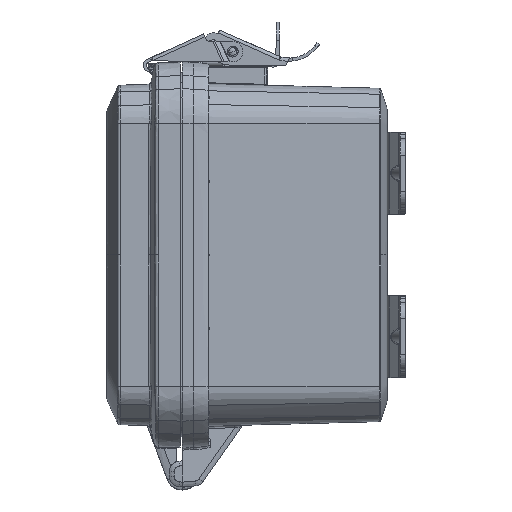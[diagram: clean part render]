
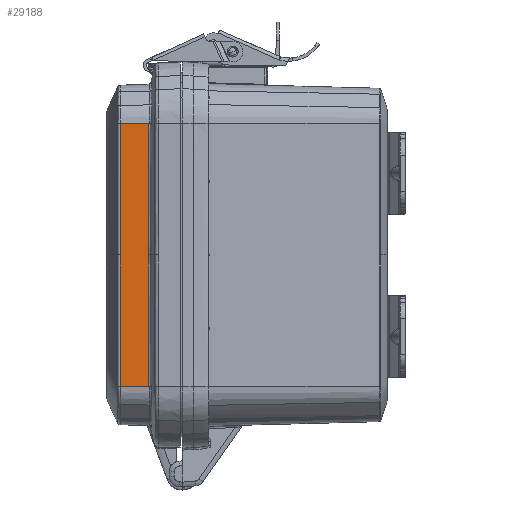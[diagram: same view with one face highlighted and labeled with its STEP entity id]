
A CAD part, left-side view. The second image highlights one B-rep face of the part: STEP entity #29188.
In plain terms, the highlighted planar face has unit normal (-0.999, 0.035, 0).
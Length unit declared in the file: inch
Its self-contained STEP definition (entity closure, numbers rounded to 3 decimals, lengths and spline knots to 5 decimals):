
#908 = ORIENTED_EDGE ( 'NONE', *, *, #61828, .T. ) ;
#1939 = CARTESIAN_POINT ( 'NONE',  ( -3.10805, 0.4854, 0. ) ) ;
#9719 = CARTESIAN_POINT ( 'NONE',  ( -3.10805, 0.48534, -0.66951 ) ) ;
#12498 = CARTESIAN_POINT ( 'NONE',  ( -3.10805, 0.48534, 0.66952 ) ) ;
#14244 = CARTESIAN_POINT ( 'NONE',  ( -3.10804, 0.48564, 1.92486 ) ) ;
#15109 = CARTESIAN_POINT ( 'NONE',  ( -3.10805, 0.48544, 1.17165 ) ) ;
#20266 = CARTESIAN_POINT ( 'NONE',  ( -3.10805, 0.48539, -1.7993 ) ) ;
#21728 = CARTESIAN_POINT ( 'NONE',  ( -3.0929, 0.91919, -2.00423 ) ) ;
#23477 = CARTESIAN_POINT ( 'NONE',  ( -3.10805, 0.4854, 0. ) ) ;
#25694 = ORIENTED_EDGE ( 'NONE', *, *, #139746, .T. ) ;
#26528 = CARTESIAN_POINT ( 'NONE',  ( -3.10809, 0.48411, 1.96668 ) ) ;
#29188 = ADVANCED_FACE ( 'NONE', ( #77534 ), #117144, .T. ) ;
#36037 = LINE ( 'NONE', #132709, #161957 ) ;
#38848 = EDGE_CURVE ( 'NONE', #58846, #134260, #146899, .T. ) ;
#47472 = CARTESIAN_POINT ( 'NONE',  ( -3.10805, 0.48533, -1.59008 ) ) ;
#48682 = VECTOR ( 'NONE', #146384, 39.37008 ) ;
#50978 = DIRECTION ( 'NONE',  ( -0.035, -0.999, 0. ) ) ;
#52010 = CARTESIAN_POINT ( 'NONE',  ( -3.10805, 0.48539, 1.79932 ) ) ;
#55609 = ORIENTED_EDGE ( 'NONE', *, *, #108804, .F. ) ;
#56310 = B_SPLINE_CURVE_WITH_KNOTS ( 'NONE', 3,
 ( #101277, #154893, #108928, #121238 ),
 .UNSPECIFIED., .F., .F.,
 ( 4, 4 ),
 ( 0., 1. ),
 .UNSPECIFIED. ) ;
#58846 = VERTEX_POINT ( 'NONE', #103634 ) ;
#60092 = ORIENTED_EDGE ( 'NONE', *, *, #38848, .T. ) ;
#61828 = EDGE_CURVE ( 'NONE', #169856, #93779, #144725, .T. ) ;
#62379 = CARTESIAN_POINT ( 'NONE',  ( -3.10805, 0.48549, -1.33902 ) ) ;
#63246 = CARTESIAN_POINT ( 'NONE',  ( -3.10819, 0.48144, -2.00844 ) ) ;
#66908 = CARTESIAN_POINT ( 'NONE',  ( -3.10805, 0.48527, 1.67379 ) ) ;
#73199 = ORIENTED_EDGE ( 'NONE', *, *, #88094, .T. ) ;
#75562 = CARTESIAN_POINT ( 'NONE',  ( -3.10809, 0.48411, -1.96668 ) ) ;
#77534 = FACE_OUTER_BOUND ( 'NONE', #117179, .T. ) ;
#78398 = CARTESIAN_POINT ( 'NONE',  ( -3.125, 0., -2.00844 ) ) ;
#87027 = CARTESIAN_POINT ( 'NONE',  ( -3.10805, 0.48544, -1.17164 ) ) ;
#88094 = EDGE_CURVE ( 'NONE', #134260, #138724, #109957, .T. ) ;
#88484 = CARTESIAN_POINT ( 'NONE',  ( -3.0929, 0.91923, -1.33475 ) ) ;
#90498 = CARTESIAN_POINT ( 'NONE',  ( -3.10805, 0.48527, -1.67377 ) ) ;
#91957 = CARTESIAN_POINT ( 'NONE',  ( -3.09291, 0.91908, -2.00844 ) ) ;
#93247 = EDGE_CURVE ( 'NONE', #137527, #169856, #56310, .T. ) ;
#93303 = CARTESIAN_POINT ( 'NONE',  ( -3.10805, 0.48549, 1.84117 ) ) ;
#93779 = VERTEX_POINT ( 'NONE', #162251 ) ;
#97063 = CARTESIAN_POINT ( 'NONE',  ( -3.0929, 0.9192, 0. ) ) ;
#101277 = CARTESIAN_POINT ( 'NONE',  ( -3.09291, 0.91908, 2.00844 ) ) ;
#101324 = DIRECTION ( 'NONE',  ( -0.035, -0.999, 0. ) ) ;
#103634 = CARTESIAN_POINT ( 'NONE',  ( -3.10819, 0.48144, -2.00844 ) ) ;
#103685 = CARTESIAN_POINT ( 'NONE',  ( -3.10805, 0.4854, 0. ) ) ;
#105622 = CARTESIAN_POINT ( 'NONE',  ( -3.10805, 0.48541, 0.33476 ) ) ;
#106492 = CARTESIAN_POINT ( 'NONE',  ( -3.10805, 0.48533, 1.5901 ) ) ;
#108804 = EDGE_CURVE ( 'NONE', #137527, #138724, #36037, .T. ) ;
#108928 = CARTESIAN_POINT ( 'NONE',  ( -3.0929, 0.91923, 1.33475 ) ) ;
#109483 = CARTESIAN_POINT ( 'NONE',  ( -3.09291, 0.91908, 2.00844 ) ) ;
#109957 = B_SPLINE_CURVE_WITH_KNOTS ( 'NONE', 3,
 ( #1939, #105622, #12498, #15109, #148662, #106492, #66908, #52010, #93303, #14244, #26528, #120558 ),
 .UNSPECIFIED., .F., .F.,
 ( 4, 2, 2, 2, 2, 4 ),
 ( 0., 0.02551, 0.03826, 0.04464, 0.04783, 0.05102 ),
 .UNSPECIFIED. ) ;
#117144 = PLANE ( 'NONE',  #171078 ) ;
#117179 = EDGE_LOOP ( 'NONE', ( #128569, #908, #25694, #60092, #73199, #55609 ) ) ;
#120558 = CARTESIAN_POINT ( 'NONE',  ( -3.10819, 0.48144, 2.00844 ) ) ;
#121238 = CARTESIAN_POINT ( 'NONE',  ( -3.0929, 0.9192, 0. ) ) ;
#128569 = ORIENTED_EDGE ( 'NONE', *, *, #93247, .T. ) ;
#130063 = CARTESIAN_POINT ( 'NONE',  ( -3.10805, 0.48541, -0.33475 ) ) ;
#132709 = CARTESIAN_POINT ( 'NONE',  ( -3.125, 0., 2.00844 ) ) ;
#134260 = VERTEX_POINT ( 'NONE', #23477 ) ;
#137527 = VERTEX_POINT ( 'NONE', #109483 ) ;
#138724 = VERTEX_POINT ( 'NONE', #150453 ) ;
#139746 = EDGE_CURVE ( 'NONE', #93779, #58846, #156066, .T. ) ;
#143767 = CARTESIAN_POINT ( 'NONE',  ( -3.125, 0., -2.00844 ) ) ;
#144725 = B_SPLINE_CURVE_WITH_KNOTS ( 'NONE', 3,
 ( #171036, #88484, #21728, #91957 ),
 .UNSPECIFIED., .F., .F.,
 ( 4, 4 ),
 ( 0., 1. ),
 .UNSPECIFIED. ) ;
#146384 = DIRECTION ( 'NONE',  ( -0.035, -0.999, 0. ) ) ;
#146899 = B_SPLINE_CURVE_WITH_KNOTS ( 'NONE', 3,
 ( #63246, #75562, #169567, #167833, #20266, #90498, #47472, #62379, #87027, #9719, #130063, #103685 ),
 .UNSPECIFIED., .F., .F.,
 ( 4, 2, 2, 2, 2, 4 ),
 ( 0., 0.00319, 0.00638, 0.01276, 0.02551, 0.05102 ),
 .UNSPECIFIED. ) ;
#148662 = CARTESIAN_POINT ( 'NONE',  ( -3.10805, 0.48549, 1.33903 ) ) ;
#150453 = CARTESIAN_POINT ( 'NONE',  ( -3.10819, 0.48144, 2.00844 ) ) ;
#154893 = CARTESIAN_POINT ( 'NONE',  ( -3.0929, 0.91919, 2.00423 ) ) ;
#156066 = LINE ( 'NONE', #143767, #48682 ) ;
#158373 = DIRECTION ( 'NONE',  ( -0.999, 0.035, 0. ) ) ;
#161957 = VECTOR ( 'NONE', #50978, 39.37008 ) ;
#162251 = CARTESIAN_POINT ( 'NONE',  ( -3.09291, 0.91908, -2.00844 ) ) ;
#167833 = CARTESIAN_POINT ( 'NONE',  ( -3.10805, 0.48549, -1.84115 ) ) ;
#169567 = CARTESIAN_POINT ( 'NONE',  ( -3.10804, 0.48564, -1.92484 ) ) ;
#169856 = VERTEX_POINT ( 'NONE', #97063 ) ;
#171036 = CARTESIAN_POINT ( 'NONE',  ( -3.0929, 0.9192, 0. ) ) ;
#171078 = AXIS2_PLACEMENT_3D ( 'NONE', #78398, #158373, #101324 ) ;
